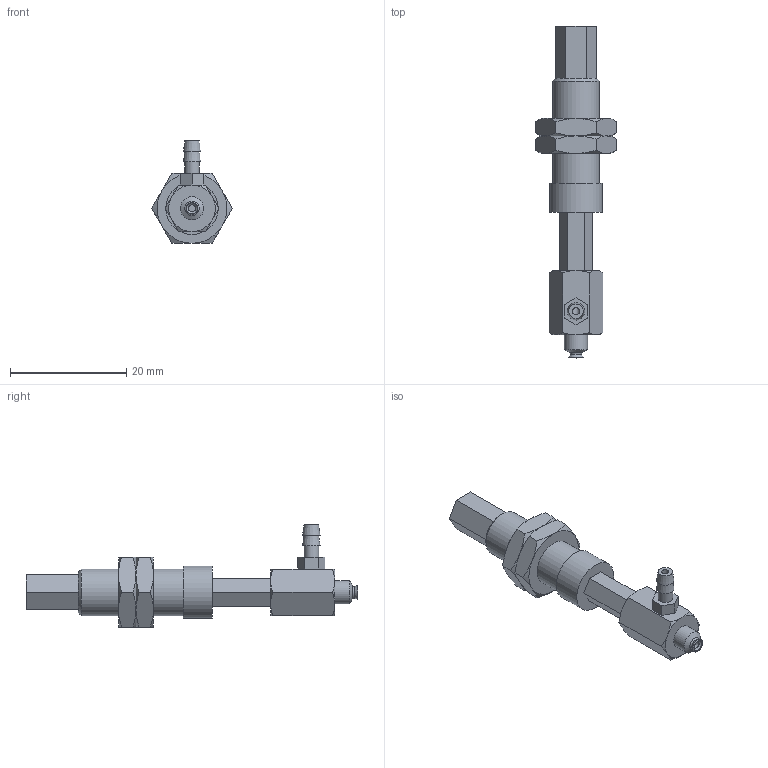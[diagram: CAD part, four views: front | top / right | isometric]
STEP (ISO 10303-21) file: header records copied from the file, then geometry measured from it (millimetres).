
FILE_DESCRIPTION(('STEP AP203'),'1');
FILE_NAME('-T.stp','2025-04-10T02:06:04',(' '),(' '),'Spatial InterOp 3D',' ',' ');
FILE_SCHEMA(('CONFIG_CONTROL_DESIGN'));
Length unit declared in the file: millimetre
Products named in the file (7): BNABPFYH-2A-10-※-T; CONNECTOR-H-2A-10; Nut-2A-10-h; NAPFTH-2A-10-FBODY; NAPFTH-2A-10-MBODY; BPFG-2A-※; T (2)
Assembly tree (7 placements, depth 2):
  BNABPFYH-2A-10-※-T
    CONNECTOR-H-2A-10
    Nut-2A-10-h  x2
    NAPFTH-2A-10-FBODY
    NAPFTH-2A-10-MBODY
    BPFG-2A-※
    T (2)
Bounding box: 13.86 x 57 x 17.6 mm (x, y, z)
Volume: 2823.1 mm3; surface area: 3465.1 mm2
Topology: 7 solids, 7 shells, 155 faces, 333 edges, 204 vertices
Faces by surface type: plane 76, cone 54, cylinder 17, torus 7, bspline 1
Full cylindrical faces by diameter (mm): 1.2 x3, 2 x2, 2.459 x2, 2.5 x1, 3 x4, 4 x1, 7.188 x2, 8 x1, 9 x1
Entity records: 3925 total; most frequent: CARTESIAN_POINT 919, DIRECTION 546, ORIENTED_EDGE 480, EDGE_CURVE 240, AXIS2_PLACEMENT_3D 221, EDGE_LOOP 194, VERTEX_POINT 170, FACE_OUTER_BOUND 156
